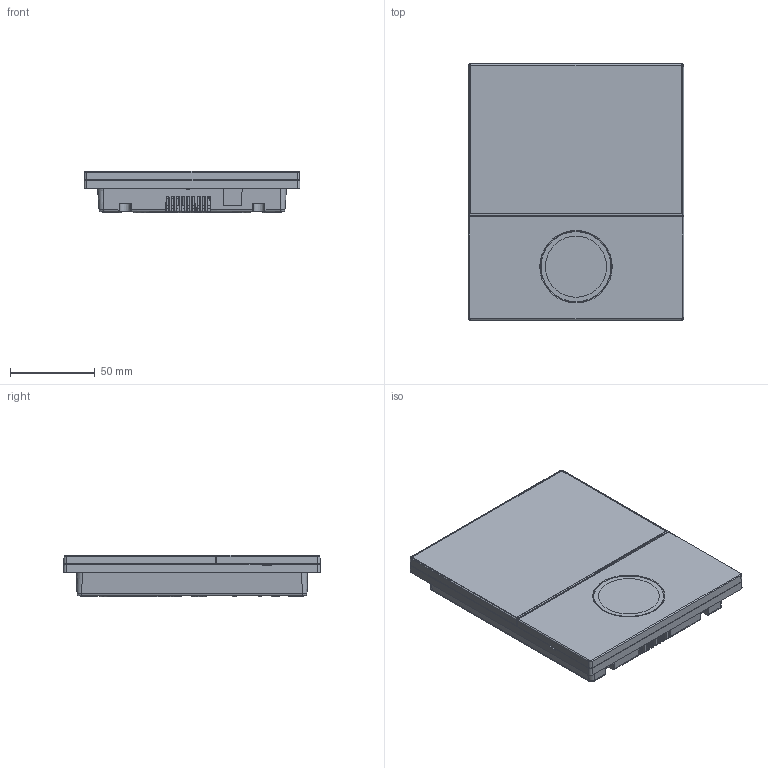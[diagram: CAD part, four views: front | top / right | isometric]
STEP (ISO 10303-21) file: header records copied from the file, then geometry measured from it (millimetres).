
FILE_DESCRIPTION (( 'STEP AP214' ), '1' );
FILE_NAME ('GT7.STEP', '2018-11-29T08:39:50', ( 'Brugger Josef' ), ( 'Gantner Electronic GmbH' ), 'SwSTEP 2.0', 'SolidWorks 2017', '' );
FILE_SCHEMA (( 'AUTOMOTIVE_DESIGN' ));
Length unit declared in the file: millimetre
Products named in the file (11): GAT-MICRO7000_OT_11; YB-TG480272C18A-C-A0; GAT-MICRO7000_GF_10; GAT-MICRO7000_GS_10; GAT-MICRO7000_LL_10; GAT-MICRO7000_LA_13; GAT-MICRO7000_OT_14; GAT-MICRO7000_UT_11; GAT-MICRO7000_UT_13; GT7
Assembly tree (10 placements, depth 4):
  GT7
    GAT-MICRO7000_UT_11
      GAT-MICRO7000_UT_13
    GAT-MICRO7000_OT_11
      GAT-MICRO7000_OT_14
      GAT-MICRO7000_LA_13
      GAT-MICRO7000_LL_10
      YB-TG480272C18A-C-A0
        GAT-MICRO7000_GS_10
        GAT-MICRO7000_GF_10
        YB-TG480272C18A-C-A0
Bounding box: 127.06 x 151.06 x 24.7 mm (x, y, z)
Volume: 138647.2 mm3; surface area: 162909.5 mm2
Topology: 8 solids, 8 shells, 1986 faces, 5168 edges, 3277 vertices
Faces by surface type: plane 784, cylinder 424, bspline 281, cone 265, torus 230, sphere 2
Entity records: 74393 total; most frequent: CARTESIAN_POINT 25951, ORIENTED_EDGE 10332, DIRECTION 8977, EDGE_CURVE 5166, VERTEX_POINT 3277, AXIS2_PLACEMENT_3D 3149, LINE 2679, VECTOR 2679
